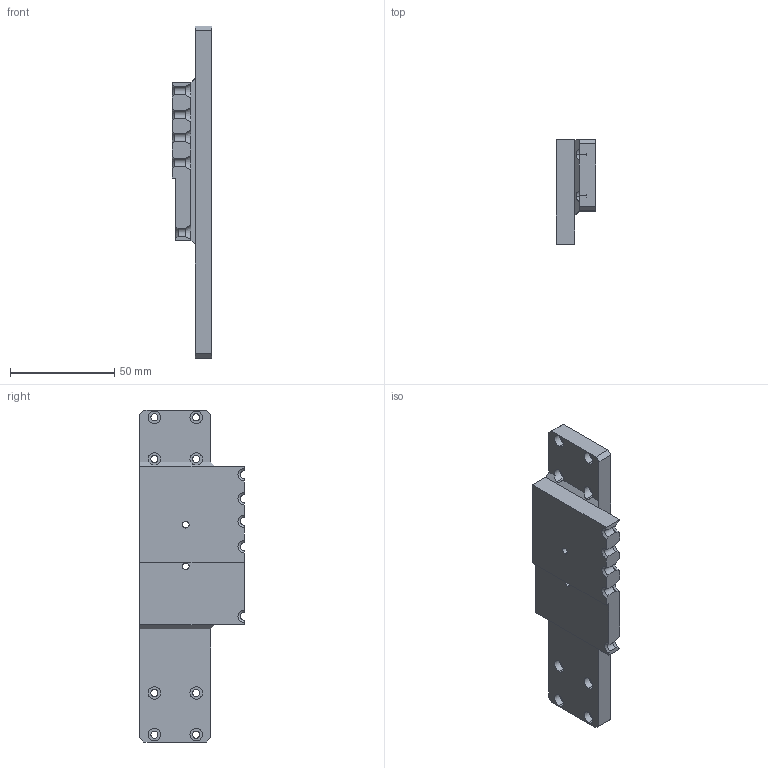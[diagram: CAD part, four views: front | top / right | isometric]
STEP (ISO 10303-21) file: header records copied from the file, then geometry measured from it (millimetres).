
FILE_DESCRIPTION (( 'STEP AP214' ), '1' );
FILE_NAME ('GZ30.19_V1气管保持块1.STEP', '2021-06-06T17:37:16', ( 'hp' ), ( '' ), 'SwSTEP 2.0', 'SolidWorks 2017', '' );
FILE_SCHEMA (( 'AUTOMOTIVE_DESIGN' ));
Length unit declared in the file: millimetre
Products named in the file (1): GZ30.19_V1气管保持块1
Bounding box: 19 x 50 x 159 mm (x, y, z)
Volume: 72162.6 mm3; surface area: 20003.1 mm2
Topology: 1 solids, 1 shells, 92 faces, 248 edges, 164 vertices
Faces by surface type: cylinder 44, plane 38, cone 10
Entity records: 3036 total; most frequent: DIRECTION 528, CARTESIAN_POINT 517, ORIENTED_EDGE 496, EDGE_CURVE 248, AXIS2_PLACEMENT_3D 191, VERTEX_POINT 164, VECTOR 146, LINE 146
